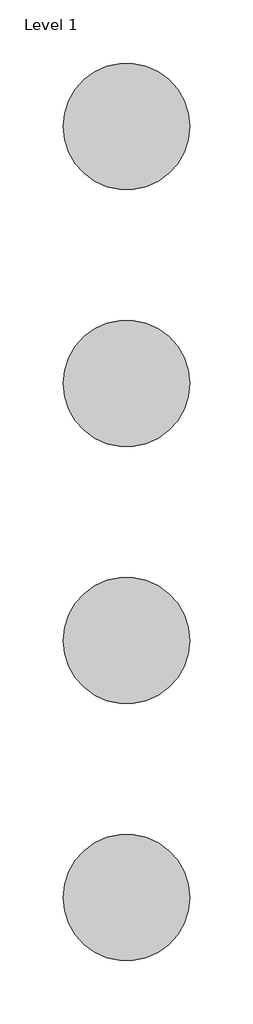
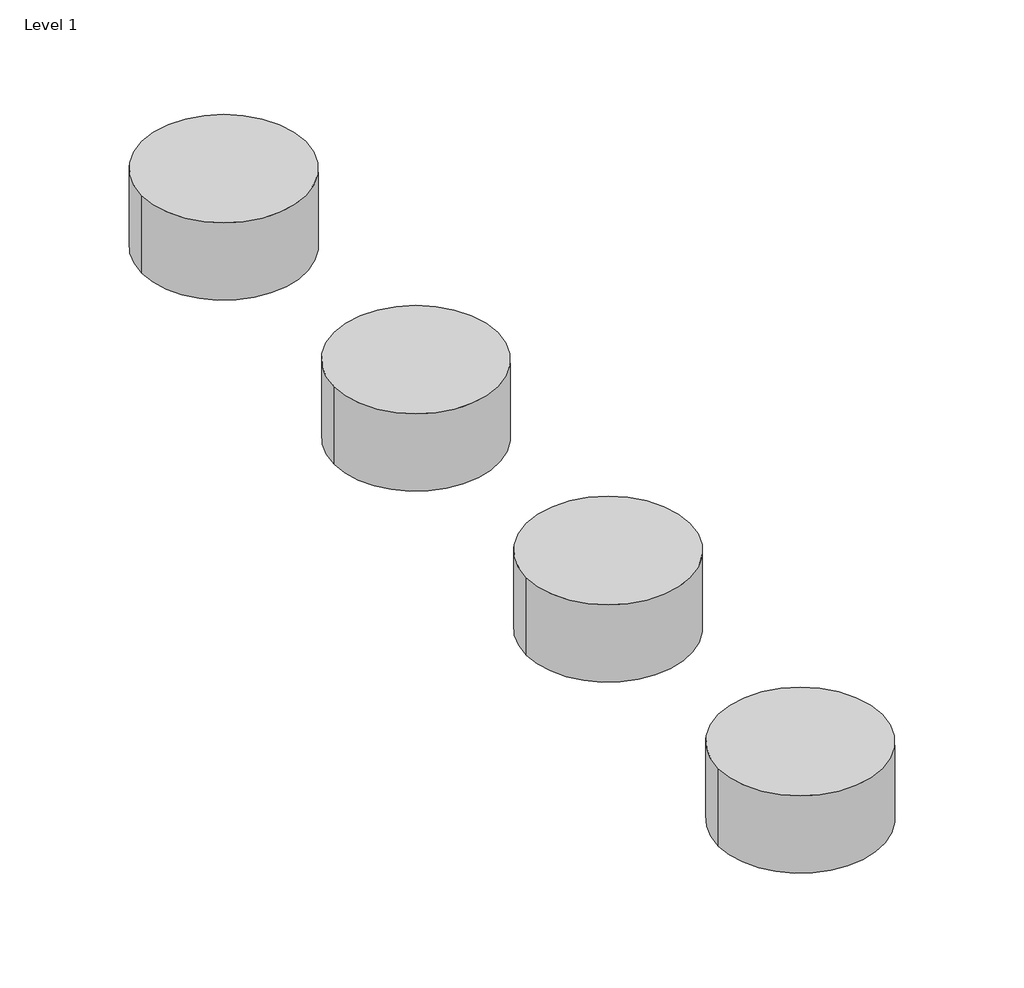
# One storey, incomplete: 4 proxies.
"""IFC4 building model written with IfcOpenShell, lengths in millimetres."""

from ifc_helpers import new_model, si_unit, origin, place, context, project, spatial, transform, mapped, element, save
from components import materialmodel_materialmodel_02e69005

model = new_model("IFC4")

# Units and contexts
model_context = context("Model", 3, world=origin())
ifc_project = project(units=[si_unit("LENGTHUNIT", "METRE", prefix="MILLI")], contexts=[model_context])

# Site, building, storey
site = spatial("IfcSite", under=ifc_project)
building = spatial("IfcBuilding", under=site)
storey = spatial("IfcBuildingStorey", under=building, Name="Level 1", Elevation=0.0)

# Proxies
placement = place(None, origin())
materialmodel_materialmodel_shape = materialmodel_materialmodel_02e69005(model_context)
element("IfcBuildingElementProxy", 1, Name="MaterialModel : MaterialModel", ObjectType="MaterialModel : MaterialModel", at=placement, inside=storey, context=model_context, shape_type="MappedRepresentation", body=[
    mapped(materialmodel_materialmodel_shape, transform((-5679.8812659, 3858.2160164, 0.0), x_axis=(1.0, 0.0, 0.0), y_axis=(0.0, 1.0, 0.0), z_axis=(0.0, 0.0, 1.0))),
])
element("IfcBuildingElementProxy", 2, Name="MaterialModel : MaterialModel", ObjectType="MaterialModel : MaterialModel", at=placement, inside=storey, context=model_context, shape_type="MappedRepresentation", body=[
    mapped(materialmodel_materialmodel_shape, transform((-5679.8812659, 4264.882683, 0.0), x_axis=(1.0, 0.0, 0.0), y_axis=(0.0, 1.0, 0.0), z_axis=(0.0, 0.0, 1.0))),
])
element("IfcBuildingElementProxy", 3, Name="MaterialModel : MaterialModel", ObjectType="MaterialModel : MaterialModel", at=placement, inside=storey, context=model_context, shape_type="MappedRepresentation", body=[
    mapped(materialmodel_materialmodel_shape, transform((-5679.8812659, 4061.5493497, 0.0), x_axis=(1.0, 0.0, 0.0), y_axis=(0.0, 1.0, 0.0), z_axis=(0.0, 0.0, 1.0))),
])
element("IfcBuildingElementProxy", 4, Name="MaterialModel : MaterialModel", ObjectType="MaterialModel : MaterialModel", at=placement, inside=storey, context=model_context, shape_type="MappedRepresentation", body=[
    mapped(materialmodel_materialmodel_shape, transform((-5679.8812659, 3654.882683, 0.0), x_axis=(1.0, 0.0, 0.0), y_axis=(0.0, 1.0, 0.0), z_axis=(0.0, 0.0, 1.0))),
])

save(model, "model.ifc")
